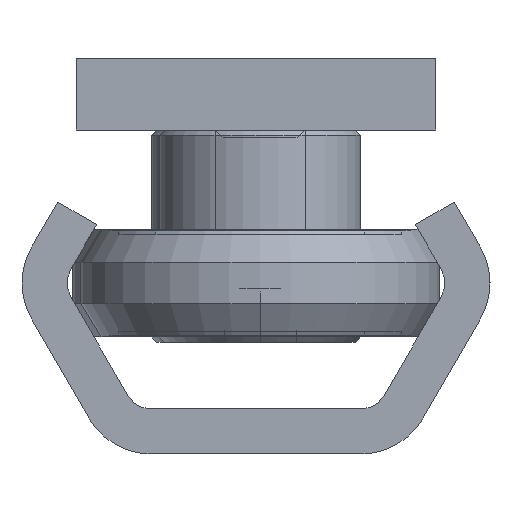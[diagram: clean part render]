
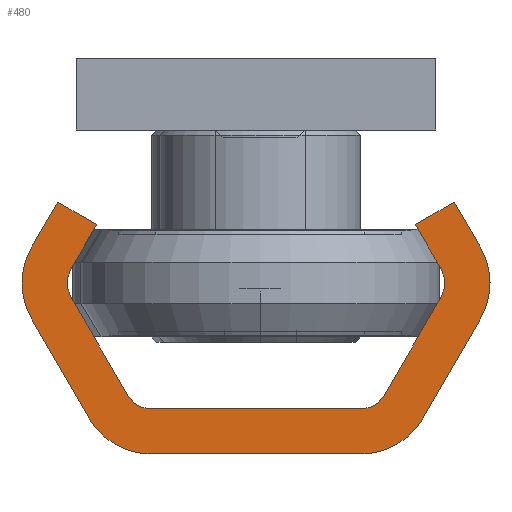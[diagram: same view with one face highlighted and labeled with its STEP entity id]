
A CAD part, left-side view. The second image highlights one B-rep face of the part: STEP entity #480.
In plain terms, the highlighted planar face has unit normal (-1, 0, 0).
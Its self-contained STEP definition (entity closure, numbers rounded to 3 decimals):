
#480 = ADVANCED_FACE( '', ( #1064 ), #1065, .F. );
#1064 = FACE_OUTER_BOUND( '', #1790, .T. );
#1065 = PLANE( '', #1791 );
#1790 = EDGE_LOOP( '', ( #2935, #2936, #2937, #2938, #2939, #2940, #2941, #2942, #2943, #2944, #2945, #2946, #2947, #2948, #2949, #2950, #2951, #2952, #2953, #2954 ) );
#1791 = AXIS2_PLACEMENT_3D( '', #2955, #2956, #2957 );
#2935 = ORIENTED_EDGE( '', *, *, #3753, .F. );
#2936 = ORIENTED_EDGE( '', *, *, #3830, .F. );
#2937 = ORIENTED_EDGE( '', *, *, #3937, .F. );
#2938 = ORIENTED_EDGE( '', *, *, #3922, .F. );
#2939 = ORIENTED_EDGE( '', *, *, #3864, .F. );
#2940 = ORIENTED_EDGE( '', *, *, #3792, .F. );
#2941 = ORIENTED_EDGE( '', *, *, #3938, .F. );
#2942 = ORIENTED_EDGE( '', *, *, #3939, .T. );
#2943 = ORIENTED_EDGE( '', *, *, #3940, .F. );
#2944 = ORIENTED_EDGE( '', *, *, #3941, .T. );
#2945 = ORIENTED_EDGE( '', *, *, #3885, .F. );
#2946 = ORIENTED_EDGE( '', *, *, #3891, .T. );
#2947 = ORIENTED_EDGE( '', *, *, #3942, .F. );
#2948 = ORIENTED_EDGE( '', *, *, #3943, .T. );
#2949 = ORIENTED_EDGE( '', *, *, #3944, .F. );
#2950 = ORIENTED_EDGE( '', *, *, #3779, .F. );
#2951 = ORIENTED_EDGE( '', *, *, #3919, .F. );
#2952 = ORIENTED_EDGE( '', *, *, #3945, .F. );
#2953 = ORIENTED_EDGE( '', *, *, #3798, .F. );
#2954 = ORIENTED_EDGE( '', *, *, #3946, .F. );
#2955 = CARTESIAN_POINT( '', ( 0., -5.825, -4. ) );
#2956 = DIRECTION( '', ( 1., 0., 0. ) );
#2957 = DIRECTION( '', ( 0., 0., -1. ) );
#3753 = EDGE_CURVE( '', #4351, #4352, #4353, .T. );
#3779 = EDGE_CURVE( '', #4390, #4391, #4392, .T. );
#3792 = EDGE_CURVE( '', #4410, #4411, #4412, .T. );
#3798 = EDGE_CURVE( '', #4418, #4419, #4420, .T. );
#3830 = EDGE_CURVE( '', #4468, #4351, #4469, .T. );
#3864 = EDGE_CURVE( '', #4411, #4518, #4519, .T. );
#3885 = EDGE_CURVE( '', #4557, #4558, #4559, .T. );
#3891 = EDGE_CURVE( '', #4557, #4566, #4567, .T. );
#3919 = EDGE_CURVE( '', #4611, #4390, #4612, .T. );
#3922 = EDGE_CURVE( '', #4518, #4615, #4616, .T. );
#3937 = EDGE_CURVE( '', #4615, #4468, #4633, .T. );
#3938 = EDGE_CURVE( '', #4634, #4410, #4635, .T. );
#3939 = EDGE_CURVE( '', #4634, #4636, #4637, .T. );
#3940 = EDGE_CURVE( '', #4638, #4636, #4639, .T. );
#3941 = EDGE_CURVE( '', #4638, #4558, #4640, .T. );
#3942 = EDGE_CURVE( '', #4641, #4566, #4642, .T. );
#3943 = EDGE_CURVE( '', #4641, #4643, #4644, .T. );
#3944 = EDGE_CURVE( '', #4391, #4643, #4645, .T. );
#3945 = EDGE_CURVE( '', #4419, #4611, #4646, .T. );
#3946 = EDGE_CURVE( '', #4352, #4418, #4647, .T. );
#4351 = VERTEX_POINT( '', #5123 );
#4352 = VERTEX_POINT( '', #5124 );
#4353 = LINE( '', #5125, #5126 );
#4390 = VERTEX_POINT( '', #5173 );
#4391 = VERTEX_POINT( '', #5174 );
#4392 = LINE( '', #5175, #5176 );
#4410 = VERTEX_POINT( '', #5196 );
#4411 = VERTEX_POINT( '', #5197 );
#4412 = LINE( '', #5198, #5199 );
#4418 = VERTEX_POINT( '', #5208 );
#4419 = VERTEX_POINT( '', #5209 );
#4420 = LINE( '', #5210, #5211 );
#4468 = VERTEX_POINT( '', #5270 );
#4469 = CIRCLE( '', #5271, 4. );
#4518 = VERTEX_POINT( '', #5328 );
#4519 = LINE( '', #5329, #5330 );
#4557 = VERTEX_POINT( '', #5369 );
#4558 = VERTEX_POINT( '', #5370 );
#4559 = LINE( '', #5371, #5372 );
#4566 = VERTEX_POINT( '', #5381 );
#4567 = CIRCLE( '', #5382, 1.5 );
#4611 = VERTEX_POINT( '', #5427 );
#4612 = LINE( '', #5428, #5429 );
#4615 = VERTEX_POINT( '', #5433 );
#4616 = CIRCLE( '', #5434, 4. );
#4633 = LINE( '', #5456, #5457 );
#4634 = VERTEX_POINT( '', #5458 );
#4635 = LINE( '', #5459, #5460 );
#4636 = VERTEX_POINT( '', #5461 );
#4637 = CIRCLE( '', #5462, 1.5 );
#4638 = VERTEX_POINT( '', #5463 );
#4639 = LINE( '', #5464, #5465 );
#4640 = CIRCLE( '', #5466, 1.5 );
#4641 = VERTEX_POINT( '', #5467 );
#4642 = LINE( '', #5468, #5469 );
#4643 = VERTEX_POINT( '', #5470 );
#4644 = CIRCLE( '', #5471, 1.5 );
#4645 = LINE( '', #5472, #5473 );
#4646 = CIRCLE( '', #5474, 4. );
#4647 = CIRCLE( '', #5475, 4. );
#5123 = CARTESIAN_POINT( '', ( 0., 5.825, 0. ) );
#5124 = CARTESIAN_POINT( '', ( 0., -5.825, 0. ) );
#5125 = CARTESIAN_POINT( '', ( 0., 5.825, 0. ) );
#5126 = VECTOR( '', #5957, 1000. );
#5173 = CARTESIAN_POINT( '', ( 0., -11.021, -14. ) );
#5174 = CARTESIAN_POINT( '', ( 0., -8.856, -12.75 ) );
#5175 = CARTESIAN_POINT( '', ( 0., -11.021, -14. ) );
#5176 = VECTOR( '', #5989, 1000. );
#5196 = CARTESIAN_POINT( '', ( 0., 8.856, -12.75 ) );
#5197 = CARTESIAN_POINT( '', ( 0., 11.021, -14. ) );
#5198 = CARTESIAN_POINT( '', ( 0., 8.856, -12.75 ) );
#5199 = VECTOR( '', #6007, 1000. );
#5208 = CARTESIAN_POINT( '', ( 0., -9.289, -2. ) );
#5209 = CARTESIAN_POINT( '', ( 0., -12.464, -7.5 ) );
#5210 = CARTESIAN_POINT( '', ( 0., -9.289, -2. ) );
#5211 = VECTOR( '', #6011, 1000. );
#5270 = CARTESIAN_POINT( '', ( 0., 9.289, -2. ) );
#5271 = AXIS2_PLACEMENT_3D( '', #6059, #6060, #6061 );
#5328 = CARTESIAN_POINT( '', ( 0., 12.464, -11.5 ) );
#5329 = CARTESIAN_POINT( '', ( 0., 11.021, -14. ) );
#5330 = VECTOR( '', #6106, 1000. );
#5369 = CARTESIAN_POINT( '', ( 0., -5.825, -2.5 ) );
#5370 = CARTESIAN_POINT( '', ( 0., 5.825, -2.5 ) );
#5371 = CARTESIAN_POINT( '', ( 0., -5.825, -2.5 ) );
#5372 = VECTOR( '', #6159, 1000. );
#5381 = CARTESIAN_POINT( '', ( 0., -7.124, -3.25 ) );
#5382 = AXIS2_PLACEMENT_3D( '', #6165, #6166, #6167 );
#5427 = CARTESIAN_POINT( '', ( 0., -12.464, -11.5 ) );
#5428 = CARTESIAN_POINT( '', ( 0., -12.464, -11.5 ) );
#5429 = VECTOR( '', #6220, 1000. );
#5433 = CARTESIAN_POINT( '', ( 0., 12.464, -7.5 ) );
#5434 = AXIS2_PLACEMENT_3D( '', #6222, #6223, #6224 );
#5456 = CARTESIAN_POINT( '', ( 0., 12.464, -7.5 ) );
#5457 = VECTOR( '', #6236, 1000. );
#5458 = CARTESIAN_POINT( '', ( 0., 10.299, -10.25 ) );
#5459 = CARTESIAN_POINT( '', ( 0., 10.299, -10.25 ) );
#5460 = VECTOR( '', #6237, 1000. );
#5461 = CARTESIAN_POINT( '', ( 0., 10.299, -8.75 ) );
#5462 = AXIS2_PLACEMENT_3D( '', #6238, #6239, #6240 );
#5463 = CARTESIAN_POINT( '', ( 0., 7.124, -3.25 ) );
#5464 = CARTESIAN_POINT( '', ( 0., 7.124, -3.25 ) );
#5465 = VECTOR( '', #6241, 1000. );
#5466 = AXIS2_PLACEMENT_3D( '', #6242, #6243, #6244 );
#5467 = CARTESIAN_POINT( '', ( 0., -10.299, -8.75 ) );
#5468 = CARTESIAN_POINT( '', ( 0., -10.299, -8.75 ) );
#5469 = VECTOR( '', #6245, 1000. );
#5470 = CARTESIAN_POINT( '', ( 0., -10.299, -10.25 ) );
#5471 = AXIS2_PLACEMENT_3D( '', #6246, #6247, #6248 );
#5472 = CARTESIAN_POINT( '', ( 0., -8.856, -12.75 ) );
#5473 = VECTOR( '', #6249, 1000. );
#5474 = AXIS2_PLACEMENT_3D( '', #6250, #6251, #6252 );
#5475 = AXIS2_PLACEMENT_3D( '', #6253, #6254, #6255 );
#5957 = DIRECTION( '', ( 0., -1., 0. ) );
#5989 = DIRECTION( '', ( 0., 0.866, 0.5 ) );
#6007 = DIRECTION( '', ( 0., 0.866, -0.5 ) );
#6011 = DIRECTION( '', ( 0., -0.5, -0.866 ) );
#6059 = CARTESIAN_POINT( '', ( 0., 5.825, -4. ) );
#6060 = DIRECTION( '', ( 1., 0., 0. ) );
#6061 = DIRECTION( '', ( 0., 0., -1. ) );
#6106 = DIRECTION( '', ( 0., 0.5, 0.866 ) );
#6159 = DIRECTION( '', ( 0., 1., 0. ) );
#6165 = CARTESIAN_POINT( '', ( 0., -5.825, -4. ) );
#6166 = DIRECTION( '', ( 1., 0., 0. ) );
#6167 = DIRECTION( '', ( 0., 0., -1. ) );
#6220 = DIRECTION( '', ( 0., 0.5, -0.866 ) );
#6222 = CARTESIAN_POINT( '', ( 0., 9., -9.5 ) );
#6223 = DIRECTION( '', ( 1., 0., 0. ) );
#6224 = DIRECTION( '', ( 0., 0., -1. ) );
#6236 = DIRECTION( '', ( 0., -0.5, 0.866 ) );
#6237 = DIRECTION( '', ( 0., -0.5, -0.866 ) );
#6238 = CARTESIAN_POINT( '', ( 0., 9., -9.5 ) );
#6239 = DIRECTION( '', ( 1., 0., 0. ) );
#6240 = DIRECTION( '', ( 0., 0., -1. ) );
#6241 = DIRECTION( '', ( 0., 0.5, -0.866 ) );
#6242 = CARTESIAN_POINT( '', ( 0., 5.825, -4. ) );
#6243 = DIRECTION( '', ( 1., 0., 0. ) );
#6244 = DIRECTION( '', ( 0., 0., -1. ) );
#6245 = DIRECTION( '', ( 0., 0.5, 0.866 ) );
#6246 = CARTESIAN_POINT( '', ( 0., -9., -9.5 ) );
#6247 = DIRECTION( '', ( 1., 0., 0. ) );
#6248 = DIRECTION( '', ( 0., 0., -1. ) );
#6249 = DIRECTION( '', ( 0., -0.5, 0.866 ) );
#6250 = CARTESIAN_POINT( '', ( 0., -9., -9.5 ) );
#6251 = DIRECTION( '', ( 1., 0., 0. ) );
#6252 = DIRECTION( '', ( 0., 0., -1. ) );
#6253 = CARTESIAN_POINT( '', ( 0., -5.825, -4. ) );
#6254 = DIRECTION( '', ( 1., 0., 0. ) );
#6255 = DIRECTION( '', ( 0., 0., -1. ) );
